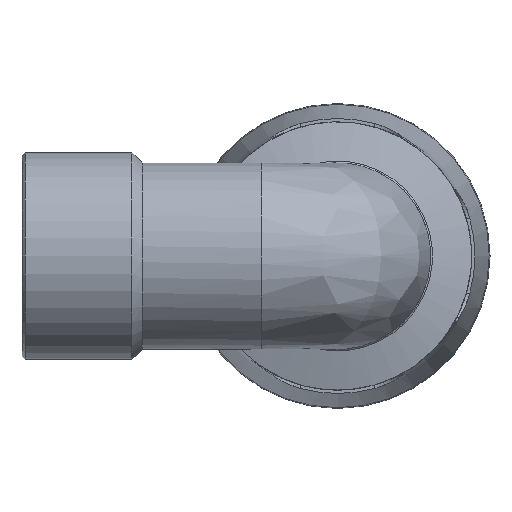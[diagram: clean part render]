
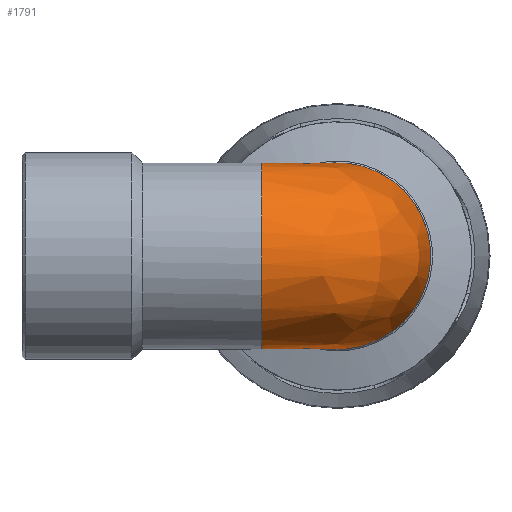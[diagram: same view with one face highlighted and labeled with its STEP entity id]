
A CAD part, left-side view. The second image highlights one B-rep face of the part: STEP entity #1791.
In plain terms, the highlighted free-form (B-spline) face has degree [2, 2] with [9, 3] control points.
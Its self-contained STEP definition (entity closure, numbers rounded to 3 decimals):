
#271=(
BOUNDED_SURFACE()
B_SPLINE_SURFACE(2,2,((#2926,#2927,#2928),(#2929,#2930,#2931),(#2932,#2933,
#2934),(#2935,#2936,#2937),(#2938,#2939,#2940),(#2941,#2942,#2943),(#2944,
#2945,#2946),(#2947,#2948,#2949),(#2950,#2951,#2952)),.UNSPECIFIED.,.F.,
 .F.,.F.)
B_SPLINE_SURFACE_WITH_KNOTS((3,2,2,2,3),(3,3),(-2.497,-1.249,
0.,1.249,2.497),(-3.142,
-1.571),.UNSPECIFIED.)
GEOMETRIC_REPRESENTATION_ITEM()
RATIONAL_B_SPLINE_SURFACE(((1.,0.707,1.),(0.811,
0.574,0.811),(1.,0.707,1.),(0.811,
0.574,0.811),(1.,0.707,1.),(0.811,
0.574,0.811),(1.,0.707,1.),(0.811,
0.574,0.811),(1.,0.707,1.)))
REPRESENTATION_ITEM('')
SURFACE()
);
#314=FACE_OUTER_BOUND('',#428,.T.);
#428=EDGE_LOOP('',(#1182,#1183,#1184,#1185));
#565=CIRCLE('',#1912,17.72);
#566=CIRCLE('',#1913,17.72);
#661=B_SPLINE_CURVE_WITH_KNOTS('',3,(#2634,#2635,#2636,#2637,#2638,#2639,
#2640,#2641,#2642,#2643,#2644,#2645,#2646,#2647,#2648,#2649),
 .UNSPECIFIED.,.F.,.F.,(4,3,3,3,3,4),(0.,0.011,
0.018,0.021,0.028,0.035),
 .UNSPECIFIED.);
#668=B_SPLINE_CURVE_WITH_KNOTS('',3,(#2902,#2903,#2904,#2905,#2906,#2907,
#2908,#2909,#2910,#2911,#2912,#2913,#2914,#2915,#2916,#2917),
 .UNSPECIFIED.,.F.,.F.,(4,3,3,3,3,4),(0.,0.007,
0.014,0.018,0.024,0.035),
 .UNSPECIFIED.);
#733=VERTEX_POINT('',#2632);
#734=VERTEX_POINT('',#2633);
#743=VERTEX_POINT('',#2900);
#744=VERTEX_POINT('',#2901);
#900=EDGE_CURVE('',#733,#734,#661,.T.);
#913=EDGE_CURVE('',#743,#744,#668,.T.);
#919=EDGE_CURVE('',#733,#744,#565,.T.);
#920=EDGE_CURVE('',#734,#743,#566,.T.);
#1182=ORIENTED_EDGE('',*,*,#913,.T.);
#1183=ORIENTED_EDGE('',*,*,#919,.F.);
#1184=ORIENTED_EDGE('',*,*,#900,.T.);
#1185=ORIENTED_EDGE('',*,*,#920,.T.);
#1791=ADVANCED_FACE('',(#314),#271,.F.);
#1912=AXIS2_PLACEMENT_3D('',#2953,#2137,#2138);
#1913=AXIS2_PLACEMENT_3D('',#2954,#2139,#2140);
#2137=DIRECTION('center_axis',(1.,0.,0.));
#2138=DIRECTION('ref_axis',(0.,-1.,0.));
#2139=DIRECTION('center_axis',(0.,-1.,0.));
#2140=DIRECTION('ref_axis',(-1.,0.,0.));
#2632=CARTESIAN_POINT('',(14.382,14.15,10.666));
#2633=CARTESIAN_POINT('',(14.15,14.382,10.666));
#2634=CARTESIAN_POINT('Ctrl Pts',(14.382,14.15,10.666));
#2635=CARTESIAN_POINT('Ctrl Pts',(14.346,14.156,10.658));
#2636=CARTESIAN_POINT('Ctrl Pts',(14.312,14.169,10.653));
#2637=CARTESIAN_POINT('Ctrl Pts',(14.28,14.189,10.649));
#2638=CARTESIAN_POINT('Ctrl Pts',(14.261,14.2,10.648));
#2639=CARTESIAN_POINT('Ctrl Pts',(14.244,14.213,10.647));
#2640=CARTESIAN_POINT('Ctrl Pts',(14.229,14.229,10.647));
#2641=CARTESIAN_POINT('Ctrl Pts',(14.22,14.238,10.647));
#2642=CARTESIAN_POINT('Ctrl Pts',(14.212,14.247,10.647));
#2643=CARTESIAN_POINT('Ctrl Pts',(14.204,14.257,10.648));
#2644=CARTESIAN_POINT('Ctrl Pts',(14.191,14.275,10.649));
#2645=CARTESIAN_POINT('Ctrl Pts',(14.179,14.294,10.651));
#2646=CARTESIAN_POINT('Ctrl Pts',(14.17,14.315,10.654));
#2647=CARTESIAN_POINT('Ctrl Pts',(14.161,14.337,10.657));
#2648=CARTESIAN_POINT('Ctrl Pts',(14.154,14.359,10.661));
#2649=CARTESIAN_POINT('Ctrl Pts',(14.15,14.382,10.666));
#2900=CARTESIAN_POINT('',(14.15,14.382,-10.666));
#2901=CARTESIAN_POINT('',(14.382,14.15,-10.666));
#2902=CARTESIAN_POINT('Ctrl Pts',(14.15,14.382,-10.666));
#2903=CARTESIAN_POINT('Ctrl Pts',(14.154,14.359,-10.661));
#2904=CARTESIAN_POINT('Ctrl Pts',(14.161,14.337,-10.657));
#2905=CARTESIAN_POINT('Ctrl Pts',(14.17,14.315,-10.654));
#2906=CARTESIAN_POINT('Ctrl Pts',(14.179,14.294,-10.651));
#2907=CARTESIAN_POINT('Ctrl Pts',(14.191,14.275,-10.649));
#2908=CARTESIAN_POINT('Ctrl Pts',(14.204,14.257,-10.648));
#2909=CARTESIAN_POINT('Ctrl Pts',(14.212,14.247,-10.647));
#2910=CARTESIAN_POINT('Ctrl Pts',(14.22,14.238,-10.647));
#2911=CARTESIAN_POINT('Ctrl Pts',(14.229,14.229,-10.647));
#2912=CARTESIAN_POINT('Ctrl Pts',(14.244,14.213,-10.647));
#2913=CARTESIAN_POINT('Ctrl Pts',(14.261,14.2,-10.648));
#2914=CARTESIAN_POINT('Ctrl Pts',(14.28,14.189,-10.649));
#2915=CARTESIAN_POINT('Ctrl Pts',(14.312,14.169,-10.653));
#2916=CARTESIAN_POINT('Ctrl Pts',(14.346,14.156,-10.658));
#2917=CARTESIAN_POINT('Ctrl Pts',(14.382,14.15,-10.666));
#2926=CARTESIAN_POINT('Ctrl Pts',(14.166,14.382,-10.646));
#2927=CARTESIAN_POINT('Ctrl Pts',(14.166,14.166,-10.646));
#2928=CARTESIAN_POINT('Ctrl Pts',(14.382,14.166,-10.646));
#2929=CARTESIAN_POINT('Ctrl Pts',(6.497,14.382,-20.851));
#2930=CARTESIAN_POINT('Ctrl Pts',(6.497,6.497,-20.851));
#2931=CARTESIAN_POINT('Ctrl Pts',(14.382,6.497,-20.851));
#2932=CARTESIAN_POINT('Ctrl Pts',(-5.612,14.382,-16.808));
#2933=CARTESIAN_POINT('Ctrl Pts',(-5.612,-5.612,-16.808));
#2934=CARTESIAN_POINT('Ctrl Pts',(14.382,-5.612,-16.808));
#2935=CARTESIAN_POINT('Ctrl Pts',(-17.72,14.382,-12.766));
#2936=CARTESIAN_POINT('Ctrl Pts',(-17.72,-17.72,-12.766));
#2937=CARTESIAN_POINT('Ctrl Pts',(14.382,-17.72,-12.766));
#2938=CARTESIAN_POINT('Ctrl Pts',(-17.72,14.382,0.));
#2939=CARTESIAN_POINT('Ctrl Pts',(-17.72,-17.72,0.));
#2940=CARTESIAN_POINT('Ctrl Pts',(14.382,-17.72,0.));
#2941=CARTESIAN_POINT('Ctrl Pts',(-17.72,14.382,12.766));
#2942=CARTESIAN_POINT('Ctrl Pts',(-17.72,-17.72,12.766));
#2943=CARTESIAN_POINT('Ctrl Pts',(14.382,-17.72,12.766));
#2944=CARTESIAN_POINT('Ctrl Pts',(-5.612,14.382,16.808));
#2945=CARTESIAN_POINT('Ctrl Pts',(-5.612,-5.612,16.808));
#2946=CARTESIAN_POINT('Ctrl Pts',(14.382,-5.612,16.808));
#2947=CARTESIAN_POINT('Ctrl Pts',(6.497,14.382,20.851));
#2948=CARTESIAN_POINT('Ctrl Pts',(6.497,6.497,20.851));
#2949=CARTESIAN_POINT('Ctrl Pts',(14.382,6.497,20.851));
#2950=CARTESIAN_POINT('Ctrl Pts',(14.166,14.382,10.646));
#2951=CARTESIAN_POINT('Ctrl Pts',(14.166,14.166,10.646));
#2952=CARTESIAN_POINT('Ctrl Pts',(14.382,14.166,10.646));
#2953=CARTESIAN_POINT('Origin',(14.382,0.,0.));
#2954=CARTESIAN_POINT('Origin',(0.,14.382,0.));
